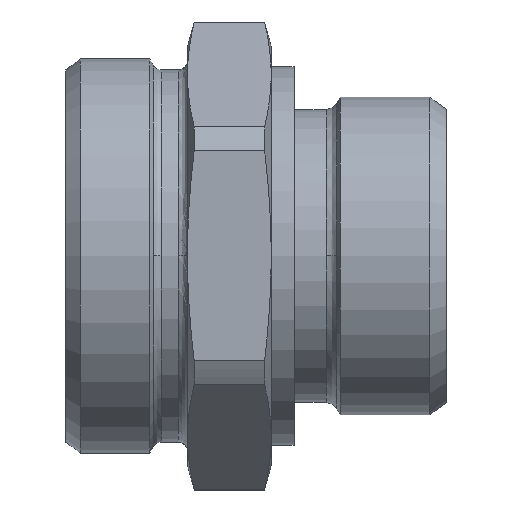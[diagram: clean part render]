
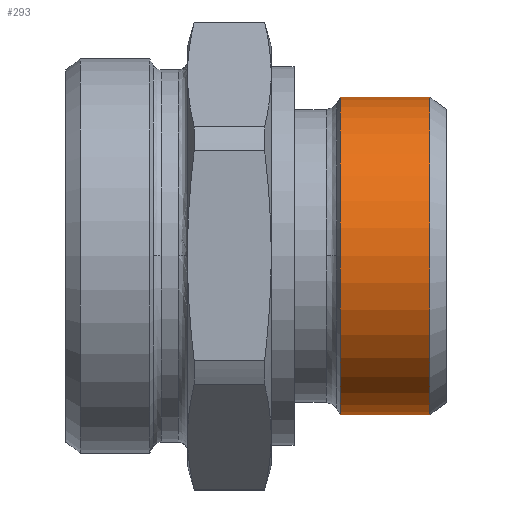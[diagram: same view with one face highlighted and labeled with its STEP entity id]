
A CAD part, top view. The second image highlights one B-rep face of the part: STEP entity #293.
In plain terms, the highlighted cylindrical face has radius 20.865 mm (diameter 41.73 mm), a partial arc.
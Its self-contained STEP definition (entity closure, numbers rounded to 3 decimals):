
#225=CARTESIAN_POINT('',(0.,20.865,-26.357));
#226=VERTEX_POINT('',#225);
#235=CARTESIAN_POINT('',(0.,-20.865,-26.357));
#236=VERTEX_POINT('',#235);
#237=CARTESIAN_POINT('',(0.,0.,-26.357));
#238=DIRECTION('',(0.0,0.0,-1.0));
#239=DIRECTION('',(0.0,1.0,0.0));
#240=AXIS2_PLACEMENT_3D('',#237,#238,#239);
#241=CIRCLE('',#240,20.865);
#242=EDGE_CURVE('',#226,#236,#241,.T.);
#262=CARTESIAN_POINT('',(0.,0.,-20.47));
#263=DIRECTION('',(0.,0.,-1.0));
#264=DIRECTION('',(0.0,1.0,0.0));
#265=AXIS2_PLACEMENT_3D('',#262,#263,#264);
#266=CYLINDRICAL_SURFACE('',#265,20.865);
#267=CARTESIAN_POINT('',(0.,20.865,-14.582));
#268=VERTEX_POINT('',#267);
#269=CARTESIAN_POINT('',(0.,20.865,-14.582));
#270=DIRECTION('',(0.0,0.0,-1.0));
#271=VECTOR('',#270,11.774);
#272=LINE('',#269,#271);
#273=EDGE_CURVE('',#268,#226,#272,.T.);
#274=ORIENTED_EDGE('',*,*,#273,.F.);
#275=CARTESIAN_POINT('',(0.,-20.865,-14.582));
#276=VERTEX_POINT('',#275);
#277=CARTESIAN_POINT('',(0.,0.,-14.582));
#278=DIRECTION('',(0.0,0.0,-1.0));
#279=DIRECTION('',(0.0,1.0,0.0));
#280=AXIS2_PLACEMENT_3D('',#277,#278,#279);
#281=CIRCLE('',#280,20.865);
#282=EDGE_CURVE('',#268,#276,#281,.T.);
#283=ORIENTED_EDGE('',*,*,#282,.T.);
#284=CARTESIAN_POINT('',(0.,-20.865,-26.357));
#285=DIRECTION('',(0.0,0.0,1.0));
#286=VECTOR('',#285,11.774);
#287=LINE('',#284,#286);
#288=EDGE_CURVE('',#236,#276,#287,.T.);
#289=ORIENTED_EDGE('',*,*,#288,.F.);
#290=ORIENTED_EDGE('',*,*,#242,.F.);
#291=EDGE_LOOP('',(#274,#283,#289,#290));
#292=FACE_OUTER_BOUND('',#291,.T.);
#293=ADVANCED_FACE('',(#292),#266,.T.);
